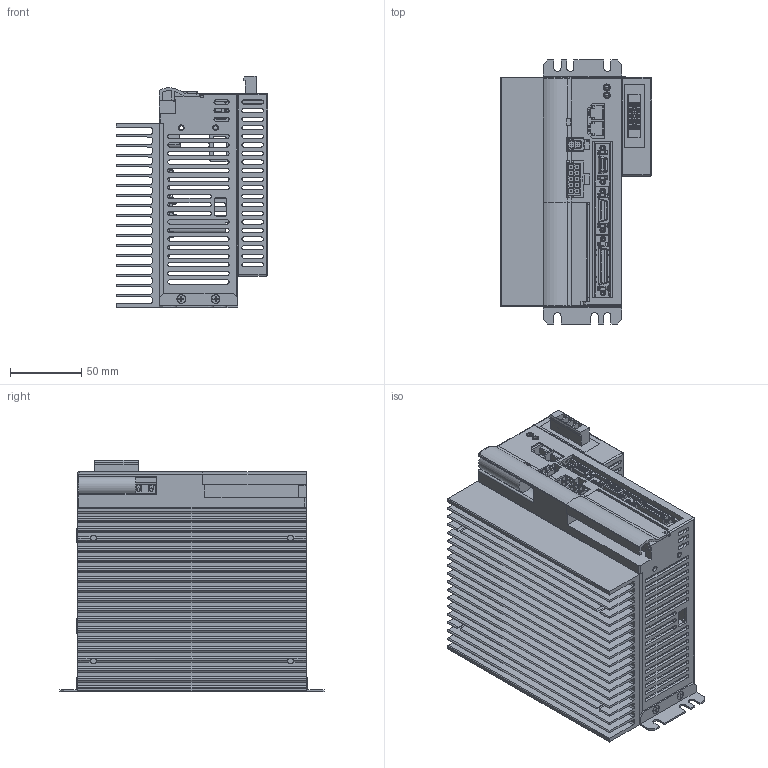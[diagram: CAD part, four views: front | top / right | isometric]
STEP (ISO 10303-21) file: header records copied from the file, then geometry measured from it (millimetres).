
FILE_DESCRIPTION( (''), '2;1');
FILE_NAME ('CA25-M40M80-_CC_3D.stp','2016-05-25T11:19:21',(''),(''),'spGate 11.3.10','spGate','');
FILE_SCHEMA (('AUTOMOTIVE_DESIGN'));
Length unit declared in the file: millimetre
Products named in the file (224): Assembly; CA25-M40M80-_CC_3D-prt0; CA25-M40M80-_CC_3D-prt1; CA25-M40M80-_CC_3D-prt2; CA25-M40M80-_CC_3D-prt3; CA25-M40M80-_CC_3D-prt4; CA25-M40M80-_CC_3D-prt5; CA25-M40M80-_CC_3D-prt6; CA25-M40M80-_CC_3D-prt7; CA25-M40M80-_CC_3D-prt8; CA25-M40M80-_CC_3D-prt9; CA25-M40M80-_CC_3D-prt10; CA25-M40M80-_CC_3D-prt11; CA25-M40M80-_CC_3D-prt12; CA25-M40M80-_CC_3D-prt13; CA25-M40M80-_CC_3D-prt14; CA25-M40M80-_CC_3D-prt15; CA25-M40M80-_CC_3D-prt16; CA25-M40M80-_CC_3D-prt17; CA25-M40M80-_CC_3D-prt18; CA25-M40M80-_CC_3D-prt19; CA25-M40M80-_CC_3D-prt20; CA25-M40M80-_CC_3D-prt21; CA25-M40M80-_CC_3D-prt22; CA25-M40M80-_CC_3D-prt23; CA25-M40M80-_CC_3D-prt24; CA25-M40M80-_CC_3D-prt25; CA25-M40M80-_CC_3D-prt26; CA25-M40M80-_CC_3D-prt27; CA25-M40M80-_CC_3D-prt28; CA25-M40M80-_CC_3D-prt29; CA25-M40M80-_CC_3D-prt30; CA25-M40M80-_CC_3D-prt31; CA25-M40M80-_CC_3D-prt32; CA25-M40M80-_CC_3D-prt33; CA25-M40M80-_CC_3D-prt34; CA25-M40M80-_CC_3D-prt35; CA25-M40M80-_CC_3D-prt36; CA25-M40M80-_CC_3D-prt37; CA25-M40M80-_CC_3D-prt38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
Assembly tree (223 placements, depth 2):
  Assembly
    CA25-M40M80-_CC_3D-prt0
    CA25-M40M80-_CC_3D-prt1
    CA25-M40M80-_CC_3D-prt2
    CA25-M40M80-_CC_3D-prt3
    CA25-M40M80-_CC_3D-prt4
    CA25-M40M80-_CC_3D-prt5
    CA25-M40M80-_CC_3D-prt6
    CA25-M40M80-_CC_3D-prt7
    CA25-M40M80-_CC_3D-prt8
    CA25-M40M80-_CC_3D-prt9
    CA25-M40M80-_CC_3D-prt10
    CA25-M40M80-_CC_3D-prt11
    CA25-M40M80-_CC_3D-prt12
    CA25-M40M80-_CC_3D-prt13
    CA25-M40M80-_CC_3D-prt14
    CA25-M40M80-_CC_3D-prt15
    CA25-M40M80-_CC_3D-prt16
    CA25-M40M80-_CC_3D-prt17
    CA25-M40M80-_CC_3D-prt18
    CA25-M40M80-_CC_3D-prt19
    CA25-M40M80-_CC_3D-prt20
    CA25-M40M80-_CC_3D-prt21
    CA25-M40M80-_CC_3D-prt22
    CA25-M40M80-_CC_3D-prt23
    CA25-M40M80-_CC_3D-prt24
    CA25-M40M80-_CC_3D-prt25
    CA25-M40M80-_CC_3D-prt26
    CA25-M40M80-_CC_3D-prt27
    CA25-M40M80-_CC_3D-prt28
    CA25-M40M80-_CC_3D-prt29
    CA25-M40M80-_CC_3D-prt30
    CA25-M40M80-_CC_3D-prt31
    CA25-M40M80-_CC_3D-prt32
    CA25-M40M80-_CC_3D-prt33
    CA25-M40M80-_CC_3D-prt34
    CA25-M40M80-_CC_3D-prt35
    CA25-M40M80-_CC_3D-prt36
    CA25-M40M80-_CC_3D-prt37
    CA25-M40M80-_CC_3D-prt38
    CA25-M40M80-_CC_3D-prt39
    CA25-M40M80-_CC_3D-prt40
    CA25-M40M80-_CC_3D-prt41
    CA25-M40M80-_CC_3D-prt42
    CA25-M40M80-_CC_3D-prt43
    CA25-M40M80-_CC_3D-prt44
    CA25-M40M80-_CC_3D-prt45
    CA25-M40M80-_CC_3D-prt46
    CA25-M40M80-_CC_3D-prt47
    CA25-M40M80-_CC_3D-prt48
    CA25-M40M80-_CC_3D-prt49
    CA25-M40M80-_CC_3D-prt50
    CA25-M40M80-_CC_3D-prt51
    CA25-M40M80-_CC_3D-prt52
    CA25-M40M80-_CC_3D-prt53
    CA25-M40M80-_CC_3D-prt54
    CA25-M40M80-_CC_3D-prt55
    CA25-M40M80-_CC_3D-prt56
    CA25-M40M80-_CC_3D-prt57
    CA25-M40M80-_CC_3D-prt58
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Bounding box: 106 x 185 x 162 mm (x, y, z)
Volume: 503879.7 mm3; surface area: 443724.1 mm2
Topology: 49 solids, 51 shells, 4531 faces, 12730 edges, 8670 vertices
Faces by surface type: plane 3468, cylinder 927, bspline 112, sphere 24
Entity records: 256037 total; most frequent: CARTESIAN_POINT 34087, ORIENTED_EDGE 25046, DIRECTION 23687, COLOUR_RGB 17282, PRESENTATION_STYLE_ASSIGNMENT 17282, STYLED_ITEM 17282, DRAUGHTING_PRE_DEFINED_CURVE_FONT 12700, CURVE_STYLE 12700
